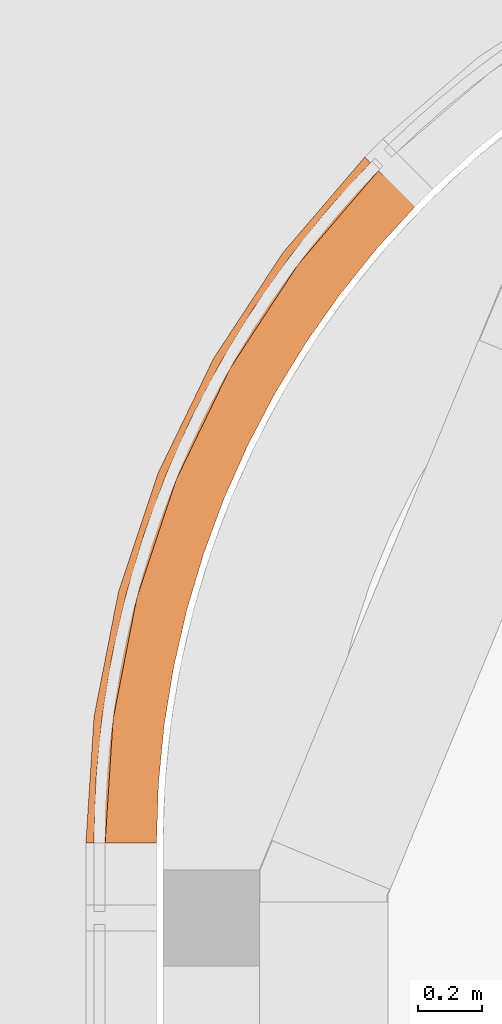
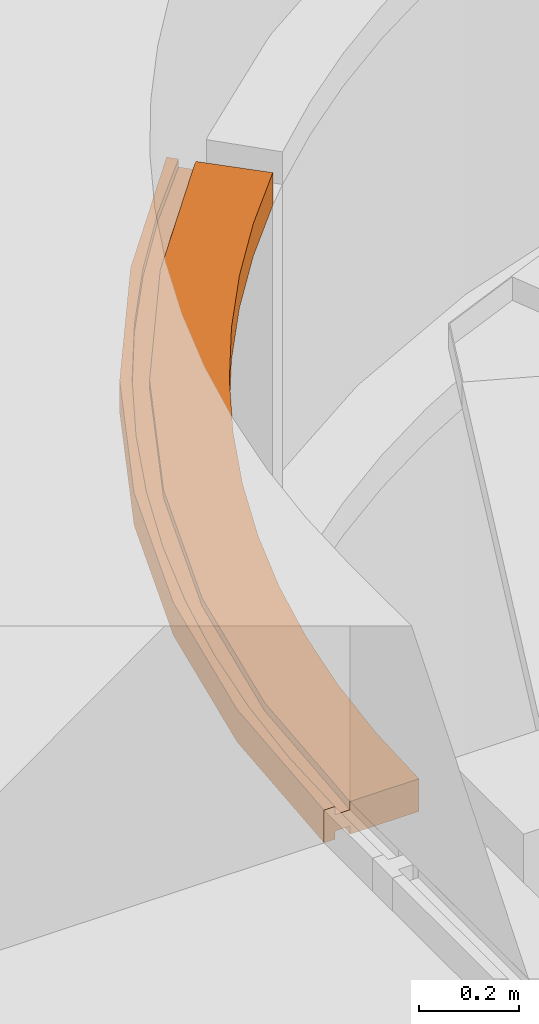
# One storey, part 294 of 302: 1 proxy.
"""IFC2X3 building model written with IfcOpenShell, lengths in metres."""

from ifc_helpers import new_model, entity, si_unit, converted_unit, derived_unit, direction, frame, origin, place, context, subcontext, project, spatial, faceted_brep, source, transform, mapped, material, type_object, type_shapes, element, save


model = new_model("IFC2X3")

# Units and contexts
model_context = context("Model", 3, precision=1e-05, world=origin(), true_north=direction((6.12303176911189e-17, 1.0)))
body_context = subcontext(model_context, "Body", "Model", "MODEL_VIEW")
ifc_project = project(units=[si_unit("LENGTHUNIT", "METRE"), si_unit("AREAUNIT", "SQUARE_METRE"), si_unit("VOLUMEUNIT", "CUBIC_METRE"), converted_unit("PLANEANGLEUNIT", "DEGREE", entity("IfcRatioMeasure", 0.0174532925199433), si_unit("PLANEANGLEUNIT", "RADIAN"), dimensions=[0, 0, 0, 0, 0, 0, 0]), si_unit("MASSUNIT", "GRAM", prefix="KILO"), derived_unit("MASSDENSITYUNIT", [(si_unit("MASSUNIT", "GRAM", prefix="KILO"), 1), (si_unit("LENGTHUNIT", "METRE"), -3)]), derived_unit("MOMENTOFINERTIAUNIT", [(si_unit("LENGTHUNIT", "METRE"), 4)]), si_unit("TIMEUNIT", "SECOND"), si_unit("FREQUENCYUNIT", "HERTZ"), si_unit("THERMODYNAMICTEMPERATUREUNIT", "DEGREE_CELSIUS"), derived_unit("THERMALTRANSMITTANCEUNIT", [(si_unit("MASSUNIT", "GRAM", prefix="KILO"), 1), (si_unit("THERMODYNAMICTEMPERATUREUNIT", "KELVIN"), -1), (si_unit("TIMEUNIT", "SECOND"), -3)]), derived_unit("VOLUMETRICFLOWRATEUNIT", [(si_unit("LENGTHUNIT", "METRE"), 3), (si_unit("TIMEUNIT", "SECOND"), -1)]), si_unit("ELECTRICCURRENTUNIT", "AMPERE"), si_unit("ELECTRICVOLTAGEUNIT", "VOLT"), si_unit("POWERUNIT", "WATT"), si_unit("FORCEUNIT", "NEWTON", prefix="KILO"), si_unit("ILLUMINANCEUNIT", "LUX"), si_unit("LUMINOUSFLUXUNIT", "LUMEN"), si_unit("LUMINOUSINTENSITYUNIT", "CANDELA"), derived_unit("USERDEFINED", [(si_unit("MASSUNIT", "GRAM", prefix="KILO"), -1), (si_unit("LENGTHUNIT", "METRE"), -2), (si_unit("TIMEUNIT", "SECOND"), 3), (si_unit("LUMINOUSFLUXUNIT", "LUMEN"), 1)]), derived_unit("LINEARVELOCITYUNIT", [(si_unit("LENGTHUNIT", "METRE"), 1), (si_unit("TIMEUNIT", "SECOND"), -1)]), si_unit("PRESSUREUNIT", "PASCAL"), derived_unit("USERDEFINED", [(si_unit("LENGTHUNIT", "METRE"), -2), (si_unit("MASSUNIT", "GRAM", prefix="KILO"), 1), (si_unit("TIMEUNIT", "SECOND"), -2)]), derived_unit("LINEARFORCEUNIT", [(si_unit("MASSUNIT", "GRAM", prefix="KILO"), 1), (si_unit("LENGTHUNIT", "METRE"), 1), (si_unit("TIMEUNIT", "SECOND"), -2), (si_unit("LENGTHUNIT", "METRE"), -1)]), derived_unit("PLANARFORCEUNIT", [(si_unit("MASSUNIT", "GRAM", prefix="KILO"), 1), (si_unit("LENGTHUNIT", "METRE"), 1), (si_unit("TIMEUNIT", "SECOND"), -2), (si_unit("LENGTHUNIT", "METRE"), -2)])], contexts=[model_context])

# Site, building, storey
site_placement = place(None, origin())
site = spatial("IfcSite", under=ifc_project, at=site_placement, Name="Default", CompositionType="ELEMENT")
building_placement = place(site_placement, origin())
building = spatial("IfcBuilding", under=site, at=building_placement, CompositionType="ELEMENT")
storey_placement = place(building_placement, frame((0.0, 0.0, -1.3)))
storey = spatial("IfcBuildingStorey", under=building, at=storey_placement, Name="00_EG", CompositionType="ELEMENT", Elevation=-1.3)

# Proxy
ifc_material = material(Name="Prepainted_Steel-ArcelorMittal_Construction_HAIRULTRA-35-CORAL-4309-[RAL_3000]")
building_element_proxy_type = type_object("IfcBuildingElementProxyType", Name="Fassadenrahmen Typ6:Fassadenrahmen Typ1", PredefinedType="NOTDEFINED", material=ifc_material)
shared_shape = source(origin(), body_context, "Body", "Brep", [
    faceted_brep([(0.887635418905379, 2.11940630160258, 0.0800000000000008), (0.887635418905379, 2.11940630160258, 0.060000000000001), (0.912705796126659, 2.09498343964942, 0.0600000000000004), (0.912705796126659, 2.09498343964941, 0.0800000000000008), (1.02731323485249, 1.98333607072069, 0.0800000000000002), (1.02731323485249, 1.98333607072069, 0.0), (0.912705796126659, 2.09498343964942, 0.0), (0.912705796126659, 2.09498343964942, 0.0200000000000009), (0.887635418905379, 2.11940630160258, 0.0200000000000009), (0.887635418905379, 2.11940630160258, 0.0), (0.869728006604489, 2.13685120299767, 0.0), (0.869728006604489, 2.13685120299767, 0.0800000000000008), (0.00159527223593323, 0.00159527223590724, 0.0800000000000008), (0.00159527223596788, 0.00159527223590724, 0.0), (0.0265952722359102, 0.00159527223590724, 0.0), (0.0265952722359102, 0.00159527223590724, 0.0200000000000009), (0.0615952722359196, 0.00159527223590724, 0.0200000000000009), (0.0615952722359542, 0.00159527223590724, 0.0), (0.221595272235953, 0.00159527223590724, 0.0), (0.221595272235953, 0.00159527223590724, 0.0800000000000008), (0.0615952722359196, 0.00159527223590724, 0.0800000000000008), (0.0615952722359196, 0.00159527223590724, 0.060000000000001), (0.0265952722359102, 0.00159527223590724, 0.0600000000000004), (0.0265952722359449, 0.00159527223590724, 0.0800000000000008), (0.160459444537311, 0.765408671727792, 0.0), (0.190971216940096, 0.856929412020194, 0.0), (0.221482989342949, 0.948450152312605, 0.0), (0.251994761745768, 1.03997089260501, 0.0), (0.282506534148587, 1.13149163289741, 0.0), (0.324513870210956, 1.21833861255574, 0.0), (0.36652120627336, 1.30518559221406, 0.0), (0.408528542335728, 1.39203257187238, 0.0), (0.450535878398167, 1.4788795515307, 0.0), (0.503343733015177, 1.5596158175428, 0.0), (0.556151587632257, 1.64035208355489, 0.0), (0.608959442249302, 1.72108834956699, 0.0), (0.661767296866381, 1.80182461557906, 0.0), (0.724501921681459, 1.87511432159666, 0.0), (0.787236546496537, 1.94840402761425, 0.0), (0.83503093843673, 2.00423981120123, 0.0), (0.904068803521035, 1.84839778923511, 0.0), (0.789758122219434, 1.70581238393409, 0.0), (0.68485452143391, 1.55617026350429, 0.0), (0.589792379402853, 1.40009105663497, 0.0), (0.504965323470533, 1.23822104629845, 0.0), (0.430724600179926, 1.07123049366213, 0.0), (0.367377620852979, 0.89981086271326, 0.0), (0.315186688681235, 0.724671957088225, 0.0), (0.274367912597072, 0.546538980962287, 0.0), (0.245090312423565, 0.366149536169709, 0.0), (0.227475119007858, 0.184250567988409, 0.0), (0.0692775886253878, 0.120795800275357, 0.0), (0.0740046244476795, 0.194141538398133, 0.0), (0.080209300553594, 0.290414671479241, 0.0), (0.086413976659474, 0.386687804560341, 0.0), (0.104925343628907, 0.481368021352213, 0.0), (0.123436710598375, 0.576048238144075, 0.0), (0.141948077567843, 0.670728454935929, 0.0), (0.102436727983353, 0.780684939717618, 0.0), (0.226924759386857, 1.15408956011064, 0.0), (0.398314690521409, 1.50842523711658, 0.0), (0.613770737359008, 1.83782920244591, 0.0), (0.821782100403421, 2.04730459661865, 0.0), (0.755928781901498, 1.97520289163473, 0.0), (0.694849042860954, 1.89901509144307, 0.0), (0.633769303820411, 1.82282729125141, 0.0), (0.577716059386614, 1.74286886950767, 0.0), (0.521662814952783, 1.66291044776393, 0.0), (0.470868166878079, 1.57951249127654, 0.0), (0.420073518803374, 1.49611453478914, 0.0), (0.37474779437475, 1.40962237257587, 0.0), (0.329422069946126, 1.32313021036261, 0.0), (0.289752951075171, 1.23390198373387, 0.0), (0.250083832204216, 1.14467375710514, 0.0), (0.216235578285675, 1.05307893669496, 0.0), (0.182387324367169, 0.961484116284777, 0.0), (0.154500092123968, 0.867901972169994, 0.0), (0.126612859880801, 0.774319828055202, 0.0), (0.104802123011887, 0.679137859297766, 0.0), (0.0829913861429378, 0.583955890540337, 0.0), (0.0673474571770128, 0.48756822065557, 0.0), (0.0517035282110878, 0.391180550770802, 0.0), (0.042291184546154, 0.293986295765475, 0.0), (0.0328788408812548, 0.196792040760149, 0.0), (0.0304627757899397, 0.121737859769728, 0.0), (0.0269103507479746, 0.394389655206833, 0.0), (0.450535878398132, 1.47887955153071, 0.0200000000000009), (0.503343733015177, 1.5596158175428, 0.0200000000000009), (0.556151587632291, 1.64035208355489, 0.0200000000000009), (0.608959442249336, 1.72108834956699, 0.0200000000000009), (0.661767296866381, 1.80182461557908, 0.0200000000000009), (0.661767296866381, 1.80182461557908, 0.0800000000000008), (0.661767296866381, 1.80182461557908, 0.060000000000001), (0.608959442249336, 1.72108834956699, 0.0600000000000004), (0.556151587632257, 1.64035208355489, 0.0600000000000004), (0.503343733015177, 1.5596158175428, 0.0600000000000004), (0.450535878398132, 1.47887955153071, 0.060000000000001), (0.450535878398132, 1.47887955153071, 0.0800000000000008), (0.503343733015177, 1.55961581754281, 0.0800000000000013), (0.556151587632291, 1.64035208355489, 0.0800000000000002), (0.608959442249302, 1.72108834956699, 0.0800000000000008), (0.724501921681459, 1.87511432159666, 0.0200000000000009), (0.787236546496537, 1.94840402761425, 0.0200000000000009), (0.849971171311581, 2.02169373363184, 0.0200000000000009), (0.709561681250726, 1.85766039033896, 0.0600000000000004), (0.724501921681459, 1.87511432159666, 0.0800000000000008), (0.787236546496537, 1.94840402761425, 0.0800000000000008), (0.835030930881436, 2.00423980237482, 0.0800000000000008), (0.835030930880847, 2.00423980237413, 0.0600000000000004), (0.75735606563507, 1.91349616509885, 0.0600000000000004), (0.408528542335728, 1.39203257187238, 0.0200000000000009), (0.282506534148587, 1.13149163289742, 0.0200000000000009), (0.324513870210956, 1.21833861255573, 0.0200000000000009), (0.36652120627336, 1.30518559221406, 0.0200000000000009), (0.408528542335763, 1.39203257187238, 0.0600000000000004), (0.36652120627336, 1.30518559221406, 0.0600000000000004), (0.324513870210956, 1.21833861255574, 0.0600000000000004), (0.282506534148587, 1.13149163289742, 0.060000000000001), (0.282506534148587, 1.13149163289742, 0.0800000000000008), (0.324513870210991, 1.21833861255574, 0.0800000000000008), (0.366521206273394, 1.30518559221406, 0.0800000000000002), (0.408528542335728, 1.39203257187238, 0.0800000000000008), (0.086413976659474, 0.38668780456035, 0.0200000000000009), (0.104925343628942, 0.481368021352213, 0.0200000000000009), (0.123436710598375, 0.576048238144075, 0.0200000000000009), (0.141948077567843, 0.670728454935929, 0.0200000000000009), (0.160459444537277, 0.765408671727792, 0.0200000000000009), (0.123436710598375, 0.576048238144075, 0.0600000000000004), (0.104925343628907, 0.481368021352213, 0.0600000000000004), (0.086413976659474, 0.38668780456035, 0.060000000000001), (0.086413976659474, 0.38668780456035, 0.0800000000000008), (0.104925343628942, 0.481368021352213, 0.0800000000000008), (0.123436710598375, 0.576048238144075, 0.0800000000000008), (0.141948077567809, 0.670728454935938, 0.0800000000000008), (0.160459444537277, 0.765408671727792, 0.0800000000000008), (0.160459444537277, 0.765408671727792, 0.060000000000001), (0.141948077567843, 0.670728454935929, 0.0600000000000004), (0.0740046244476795, 0.194141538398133, 0.0200000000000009), (0.080209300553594, 0.290414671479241, 0.0200000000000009), (0.0677999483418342, 0.0978684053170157, 0.0200000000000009), (0.069277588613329, 0.120795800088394, 0.0800000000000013), (0.0740046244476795, 0.194141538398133, 0.0800000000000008), (0.0802093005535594, 0.290414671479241, 0.0800000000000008), (0.0802093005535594, 0.290414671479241, 0.0600000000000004), (0.0740046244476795, 0.194141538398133, 0.0600000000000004), (0.0677999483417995, 0.0978684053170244, 0.0600000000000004), (0.190971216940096, 0.856929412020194, 0.0200000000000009), (0.221482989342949, 0.948450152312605, 0.0200000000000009), (0.251994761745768, 1.03997089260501, 0.0200000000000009), (0.251994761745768, 1.03997089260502, 0.0800000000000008), (0.251994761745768, 1.03997089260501, 0.0600000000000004), (0.221482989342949, 0.948450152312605, 0.0600000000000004), (0.190971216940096, 0.856929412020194, 0.0600000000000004), (0.190971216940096, 0.856929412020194, 0.0800000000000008), (0.221482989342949, 0.948450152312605, 0.0800000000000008), (0.0297370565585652, 0.0991936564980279, 0.0200000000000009), (0.0328788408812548, 0.196792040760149, 0.0200000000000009), (0.042291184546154, 0.293986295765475, 0.0200000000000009), (0.0517035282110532, 0.391180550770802, 0.0200000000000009), (0.0673474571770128, 0.48756822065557, 0.0200000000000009), (0.0829913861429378, 0.583955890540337, 0.0200000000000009), (0.104802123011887, 0.679137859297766, 0.0200000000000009), (0.126612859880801, 0.774319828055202, 0.0200000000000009), (0.154500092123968, 0.867901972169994, 0.0200000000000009), (0.182387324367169, 0.961484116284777, 0.0200000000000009), (0.216235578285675, 1.05307893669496, 0.0200000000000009), (0.250083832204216, 1.14467375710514, 0.0200000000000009), (0.289752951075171, 1.23390198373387, 0.0200000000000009), (0.329422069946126, 1.32313021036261, 0.0200000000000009), (0.37474779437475, 1.40962237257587, 0.0200000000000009), (0.420073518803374, 1.49611453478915, 0.0200000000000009), (0.470868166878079, 1.57951249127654, 0.0200000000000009), (0.521662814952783, 1.66291044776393, 0.0200000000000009), (0.577716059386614, 1.74286886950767, 0.0200000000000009), (0.633769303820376, 1.82282729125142, 0.0200000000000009), (0.694849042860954, 1.89901509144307, 0.0200000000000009), (0.755928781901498, 1.97520289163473, 0.0200000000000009), (0.821782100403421, 2.04730459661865, 0.0200000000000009), (0.521662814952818, 1.66291044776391, 0.0800000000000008), (0.470868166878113, 1.57951249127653, 0.0800000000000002), (0.420073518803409, 1.49611453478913, 0.0800000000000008), (0.420073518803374, 1.49611453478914, 0.0600000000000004), (0.470868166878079, 1.57951249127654, 0.0600000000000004), (0.521662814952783, 1.66291044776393, 0.0600000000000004), (0.37474779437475, 1.40962237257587, 0.0800000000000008), (0.329422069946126, 1.32313021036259, 0.0800000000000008), (0.329422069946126, 1.32313021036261, 0.0600000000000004), (0.37474779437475, 1.40962237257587, 0.0600000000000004), (0.694849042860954, 1.89901509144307, 0.0800000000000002), (0.633769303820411, 1.82282729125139, 0.0800000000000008), (0.633769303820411, 1.82282729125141, 0.0600000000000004), (0.694849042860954, 1.89901509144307, 0.0600000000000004), (0.755928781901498, 1.97520289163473, 0.0600000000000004), (0.755928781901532, 1.97520289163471, 0.0800000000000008), (0.821782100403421, 2.04730459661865, 0.0800000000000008), (0.821782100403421, 2.04730459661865, 0.0600000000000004), (0.577716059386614, 1.74286886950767, 0.0800000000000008), (0.577716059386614, 1.74286886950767, 0.0600000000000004), (0.289752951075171, 1.23390198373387, 0.0800000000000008), (0.250083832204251, 1.14467375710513, 0.0800000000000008), (0.250083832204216, 1.14467375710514, 0.0600000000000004), (0.289752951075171, 1.23390198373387, 0.0600000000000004), (0.154500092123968, 0.867901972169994, 0.0800000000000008), (0.126612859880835, 0.774319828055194, 0.0800000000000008), (0.126612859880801, 0.774319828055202, 0.0600000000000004), (0.154500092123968, 0.867901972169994, 0.0600000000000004), (0.182387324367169, 0.961484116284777, 0.0600000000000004), (0.182387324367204, 0.961484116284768, 0.0800000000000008), (0.042291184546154, 0.293986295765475, 0.0800000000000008), (0.0328788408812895, 0.196792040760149, 0.0800000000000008), (0.0328788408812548, 0.196792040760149, 0.0600000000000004), (0.042291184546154, 0.293986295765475, 0.0600000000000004), (0.0517035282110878, 0.391180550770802, 0.0600000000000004), (0.0517035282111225, 0.391180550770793, 0.0800000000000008), (0.216235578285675, 1.05307893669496, 0.0600000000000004), (0.216235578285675, 1.05307893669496, 0.0800000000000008), (0.104802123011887, 0.679137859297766, 0.0800000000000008), (0.0829913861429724, 0.583955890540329, 0.0800000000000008), (0.0829913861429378, 0.583955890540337, 0.0600000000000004), (0.104802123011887, 0.679137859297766, 0.0600000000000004), (0.0297370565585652, 0.0991936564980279, 0.0600000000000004), (0.0304627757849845, 0.121737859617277, 0.0800000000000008), (0.0673474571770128, 0.48756822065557, 0.0800000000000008), (0.0673474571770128, 0.48756822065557, 0.0600000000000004), (0.398314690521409, 1.50842523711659, 0.0800000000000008), (0.613770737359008, 1.83782920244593, 0.0800000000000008), (0.226924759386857, 1.15408956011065, 0.0800000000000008), (0.02691035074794, 0.394389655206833, 0.0800000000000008), (0.102436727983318, 0.780684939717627, 0.0800000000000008), (0.274367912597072, 0.546538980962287, 0.0800000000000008), (0.315186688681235, 0.724671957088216, 0.0800000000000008), (0.367377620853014, 0.899810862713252, 0.0800000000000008), (0.430724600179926, 1.07123049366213, 0.0800000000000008), (0.504965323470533, 1.23822104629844, 0.0800000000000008), (0.589792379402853, 1.40009105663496, 0.0800000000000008), (0.684854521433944, 1.55617026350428, 0.0800000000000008), (0.789758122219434, 1.70581238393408, 0.0800000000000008), (0.904068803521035, 1.84839778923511, 0.0800000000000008), (0.227475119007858, 0.184250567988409, 0.0800000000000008), (0.245090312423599, 0.366149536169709, 0.0800000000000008)], [[[0, 1, 2, 3, 4, 5, 6, 7, 8, 9, 10, 11]], [[12, 13, 14, 15, 16, 17, 18, 19, 20, 21, 22, 23]], [[24, 25, 26, 27, 28, 29, 30, 31, 32, 33, 34, 35, 36, 37, 38, 39, 6, 5, 40, 41, 42, 43, 44, 45, 46, 47, 48, 49, 50, 18, 17, 51, 52, 53, 54, 55, 56, 57]], [[58, 59, 60, 61, 10, 9, 62, 63, 64, 65, 66, 67, 68, 69, 70, 71, 72, 73, 74, 75, 76, 77, 78, 79, 80, 81, 82, 83, 84, 14, 13, 85]], [[32, 86, 87, 88, 89, 90, 36, 35, 34, 33]], [[91, 92, 93, 94, 95, 96, 97, 98, 99, 100]], [[7, 6, 39, 38, 37, 36, 90, 101, 102, 103]], [[104, 92, 91, 105, 106, 107, 3, 2, 108, 109]], [[110, 86, 32, 31, 30, 29, 28, 111, 112, 113]], [[97, 96, 114, 115, 116, 117, 118, 119, 120, 121]], [[56, 55, 54, 122, 123, 124, 125, 126, 24, 57]], [[127, 128, 129, 130, 131, 132, 133, 134, 135, 136]], [[137, 138, 122, 54, 53, 52, 51, 17, 16, 139]], [[20, 140, 141, 142, 130, 129, 143, 144, 145, 21]], [[25, 24, 126, 146, 147, 148, 111, 28, 27, 26]], [[149, 118, 117, 150, 151, 152, 135, 134, 153, 154]], [[126, 125, 124, 123, 122, 138, 137, 139, 16, 15, 155, 156, 157, 158, 159, 160, 161, 162, 163, 164, 165, 166, 167, 168, 169, 170, 171, 172, 173, 174, 175, 176, 177, 8, 7, 103, 102, 101, 90, 89, 88, 87, 86, 110, 113, 112, 111, 148, 147, 146]], [[68, 67, 172, 171, 170, 69]], [[178, 179, 180, 181, 182, 183]], [[70, 69, 170, 169, 168, 71]], [[180, 184, 185, 186, 187, 181]], [[174, 65, 64, 63, 176, 175]], [[188, 189, 190, 191, 192, 193]], [[63, 62, 9, 8, 177, 176]], [[1, 0, 194, 193, 192, 195]], [[66, 65, 174, 173, 172, 67]], [[189, 196, 178, 183, 197, 190]], [[167, 166, 73, 72, 71, 168]], [[185, 198, 199, 200, 201, 186]], [[76, 75, 164, 163, 162, 77]], [[202, 203, 204, 205, 206, 207]], [[156, 83, 82, 81, 158, 157]], [[208, 209, 210, 211, 212, 213]], [[164, 75, 74, 73, 166, 165]], [[214, 200, 199, 215, 207, 206]], [[162, 161, 160, 79, 78, 77]], [[216, 217, 218, 219, 204, 203]], [[155, 15, 14, 84, 83, 156]], [[220, 210, 209, 221, 23, 22]], [[160, 159, 158, 81, 80, 79]], [[217, 222, 213, 212, 223, 218]], [[61, 60, 224, 225]], [[10, 61, 225, 11]], [[60, 59, 226, 224]], [[227, 228, 58, 85]], [[12, 227, 85, 13]], [[59, 58, 228, 226]], [[228, 227, 12, 23, 221, 209, 208, 213, 222, 217, 216, 203, 202, 207, 215, 199, 198, 185, 184, 180, 179, 178, 196, 189, 188, 193, 194, 0, 11, 225, 224, 226]], [[229, 230, 231, 232, 233, 234, 235, 236, 237, 4, 3, 107, 106, 105, 91, 100, 99, 98, 97, 121, 120, 119, 118, 149, 154, 153, 134, 133, 132, 131, 130, 142, 141, 140, 20, 19, 238, 239]], [[135, 152, 151, 150, 117, 116, 115, 114, 96, 95, 94, 93, 92, 104, 109, 108, 2, 1, 195, 192, 191, 190, 197, 183, 182, 181, 187, 186, 201, 200, 214, 206, 205, 204, 219, 218, 223, 212, 211, 210, 220, 22, 21, 145, 144, 143, 129, 128, 127, 136]], [[236, 41, 40, 237]], [[4, 237, 40, 5]], [[43, 42, 235, 234]], [[44, 43, 234, 233]], [[236, 235, 42, 41]], [[233, 232, 45, 44]], [[47, 46, 231, 230]], [[47, 230, 229, 48]], [[50, 49, 239, 238]], [[239, 49, 48, 229]], [[18, 50, 238, 19]], [[45, 232, 231, 46]]]),
])
type_shapes(building_element_proxy_type, [shared_shape])
proxy_placement = place(storey_placement, frame((-266.901706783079, 42.736493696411, 5.12999999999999)))
element("IfcBuildingElementProxy", 1, at=proxy_placement, inside=storey, type_object=building_element_proxy_type, material=ifc_material, Name="Fassadenrahmen Typ6:Fassadenrahmen Typ1", ObjectType="Fassadenrahmen Typ6:Fassadenrahmen Typ1", context=body_context, shape_type="MappedRepresentation", body=[
    mapped(shared_shape, transform((0.0, 0.0, 0.0), scale=1.0)),
])

save(model, "model.ifc")
